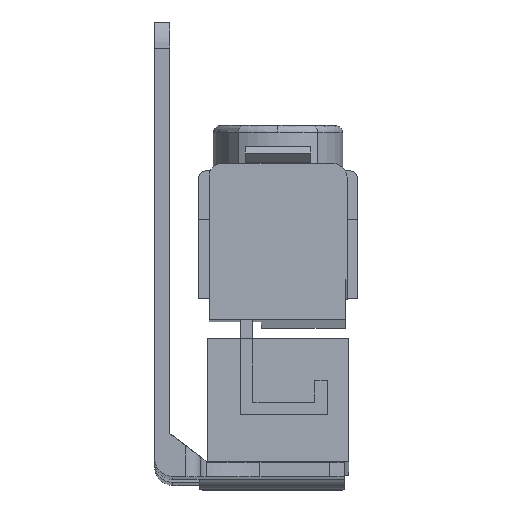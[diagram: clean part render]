
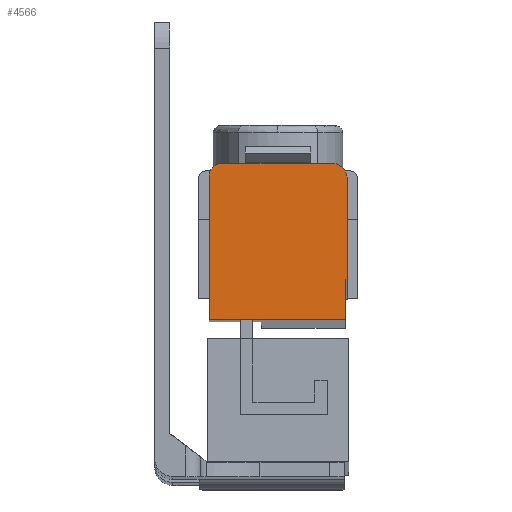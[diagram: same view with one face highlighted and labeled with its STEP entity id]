
A CAD part, front view. The second image highlights one B-rep face of the part: STEP entity #4566.
In plain terms, the highlighted planar face has unit normal (0, -1, 0.007).
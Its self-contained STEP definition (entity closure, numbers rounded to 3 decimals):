
#47 = VERTEX_POINT ( 'NONE', #153 ) ;
#48 = VERTEX_POINT ( 'NONE', #154 ) ;
#49 = VERTEX_POINT ( 'NONE', #155 ) ;
#61 = VERTEX_POINT ( 'NONE', #167 ) ;
#67 = VERTEX_POINT ( 'NONE', #173 ) ;
#68 = VERTEX_POINT ( 'NONE', #174 ) ;
#153 = CARTESIAN_POINT ( 'NONE',  ( 26.25, -24.782, -26.031 ) ) ;
#154 = CARTESIAN_POINT ( 'NONE',  ( 26.25, -24.744, -20.531 ) ) ;
#155 = CARTESIAN_POINT ( 'NONE',  ( 26.5, -24.646, -6.582 ) ) ;
#167 = CARTESIAN_POINT ( 'NONE',  ( 24.45, -24.632, -4.532 ) ) ;
#173 = CARTESIAN_POINT ( 'NONE',  ( 9.25, -24.632, -4.532 ) ) ;
#174 = CARTESIAN_POINT ( 'NONE',  ( 26.5, -24.744, -20.531 ) ) ;
#477 = CARTESIAN_POINT ( 'NONE',  ( 26.25, -24.782, -26.031 ) ) ;
#478 = DIRECTION ( 'NONE',  ( 0., 0.007, 1. ) ) ;
#479 = CARTESIAN_POINT ( 'NONE',  ( 26.25, -24.782, -26.031 ) ) ;
#480 = DIRECTION ( 'NONE',  ( 1., 0., 0. ) ) ;
#485 = CARTESIAN_POINT ( 'NONE',  ( 7.5, -24.744, -20.531 ) ) ;
#486 = DIRECTION ( 'NONE',  ( 1., 0., 0. ) ) ;
#487 = CARTESIAN_POINT ( 'NONE',  ( 7.5, -24.644, -6.282 ) ) ;
#488 = DIRECTION ( 'NONE',  ( 0., -0.007, -1. ) ) ;
#495 = CARTESIAN_POINT ( 'NONE',  ( 9.25, -24.644, -6.282 ) ) ;
#496 = DIRECTION ( 'NONE',  ( 0., -1., 0.007 ) ) ;
#497 = DIRECTION ( 'NONE',  ( 0., -0.007, -1. ) ) ;
#500 = CARTESIAN_POINT ( 'NONE',  ( 24.45, -24.646, -6.582 ) ) ;
#501 = DIRECTION ( 'NONE',  ( 0., -1., 0.007 ) ) ;
#502 = DIRECTION ( 'NONE',  ( 0., 0.007, 1. ) ) ;
#505 = CARTESIAN_POINT ( 'NONE',  ( 26.5, -24.646, -6.582 ) ) ;
#506 = DIRECTION ( 'NONE',  ( 0., 0.007, 1. ) ) ;
#515 = CARTESIAN_POINT ( 'NONE',  ( 9.25, -24.632, -4.532 ) ) ;
#516 = DIRECTION ( 'NONE',  ( -1., 0., 0. ) ) ;
#807 = EDGE_CURVE ( 'NONE', #47, #48, #1705, .T. ) ;
#808 = EDGE_CURVE ( 'NONE', #2808, #47, #1709, .T. ) ;
#811 = EDGE_CURVE ( 'NONE', #48, #68, #1720, .T. ) ;
#812 = EDGE_CURVE ( 'NONE', #2804, #2808, #1724, .T. ) ;
#816 = EDGE_CURVE ( 'NONE', #67, #2804, #1741, .T. ) ;
#818 = EDGE_CURVE ( 'NONE', #49, #61, #1748, .T. ) ;
#820 = EDGE_CURVE ( 'NONE', #68, #49, #1751, .T. ) ;
#825 = EDGE_CURVE ( 'NONE', #61, #67, #1770, .T. ) ;
#1172 = AXIS2_PLACEMENT_3D ( 'NONE', #495, #496, #497 ) ;
#1173 = AXIS2_PLACEMENT_3D ( 'NONE', #500, #501, #502 ) ;
#1543 = AXIS2_PLACEMENT_3D ( 'NONE', #5917, #5918, #5919 ) ;
#1705 = LINE ( 'NONE', #477, #1707 ) ;
#1707 = VECTOR ( 'NONE', #478, 1000. ) ;
#1709 = LINE ( 'NONE', #479, #1711 ) ;
#1711 = VECTOR ( 'NONE', #480, 1000. ) ;
#1720 = LINE ( 'NONE', #485, #1722 ) ;
#1722 = VECTOR ( 'NONE', #486, 1000. ) ;
#1724 = LINE ( 'NONE', #487, #1726 ) ;
#1726 = VECTOR ( 'NONE', #488, 1000. ) ;
#1741 = CIRCLE ( 'NONE', #1172, 1.75 ) ;
#1748 = CIRCLE ( 'NONE', #1173, 2.05 ) ;
#1751 = LINE ( 'NONE', #505, #1753 ) ;
#1753 = VECTOR ( 'NONE', #506, 1000. ) ;
#1770 = LINE ( 'NONE', #515, #1772 ) ;
#1772 = VECTOR ( 'NONE', #516, 1000. ) ;
#2514 = FACE_OUTER_BOUND ( 'NONE', #2913, .T. ) ;
#2804 = VERTEX_POINT ( 'NONE', #5567 ) ;
#2808 = VERTEX_POINT ( 'NONE', #5571 ) ;
#2913 = EDGE_LOOP ( 'NONE', ( #3868, #3867, #3866, #3865, #3864, #3863, #3862, #3861 ) ) ;
#3861 = ORIENTED_EDGE ( 'NONE', *, *, #811, .T. ) ;
#3862 = ORIENTED_EDGE ( 'NONE', *, *, #807, .T. ) ;
#3863 = ORIENTED_EDGE ( 'NONE', *, *, #808, .T. ) ;
#3864 = ORIENTED_EDGE ( 'NONE', *, *, #812, .T. ) ;
#3865 = ORIENTED_EDGE ( 'NONE', *, *, #816, .T. ) ;
#3866 = ORIENTED_EDGE ( 'NONE', *, *, #825, .T. ) ;
#3867 = ORIENTED_EDGE ( 'NONE', *, *, #818, .T. ) ;
#3868 = ORIENTED_EDGE ( 'NONE', *, *, #820, .T. ) ;
#4566 = ADVANCED_FACE ( 'NONE', ( #2514 ), #5916, .T. ) ;
#5567 = CARTESIAN_POINT ( 'NONE',  ( 7.5, -24.644, -6.282 ) ) ;
#5571 = CARTESIAN_POINT ( 'NONE',  ( 7.5, -24.782, -26.031 ) ) ;
#5916 = PLANE ( 'NONE',  #1543 ) ;
#5917 = CARTESIAN_POINT ( 'NONE',  ( 9.25, -24.644, -6.282 ) ) ;
#5918 = DIRECTION ( 'NONE',  ( 0., -1., 0.007 ) ) ;
#5919 = DIRECTION ( 'NONE',  ( 0., -0.007, -1. ) ) ;
